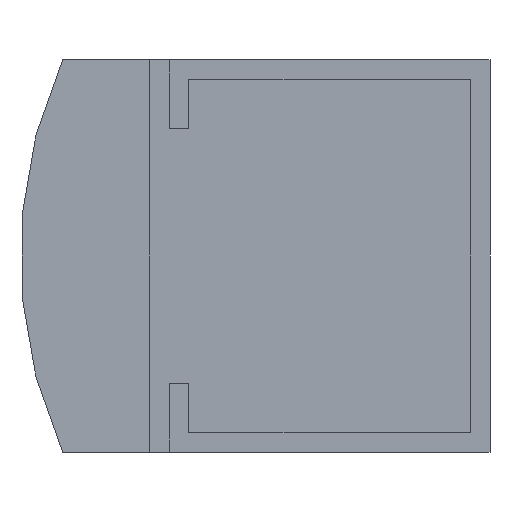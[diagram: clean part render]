
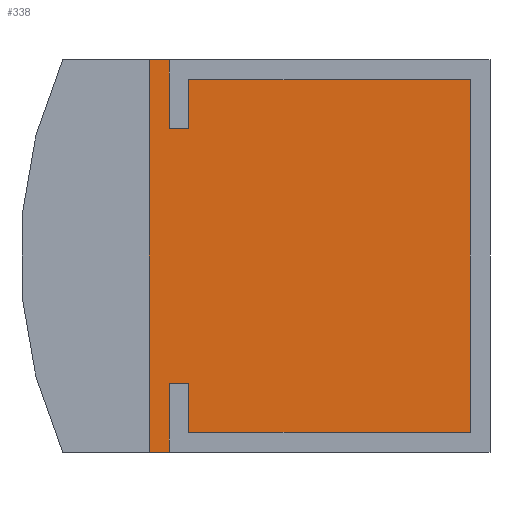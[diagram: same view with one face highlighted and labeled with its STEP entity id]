
A CAD part, left-side view. The second image highlights one B-rep face of the part: STEP entity #338.
In plain terms, the highlighted planar face has unit normal (-1, 0, 0).
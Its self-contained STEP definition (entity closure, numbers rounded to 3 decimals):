
#23 = EDGE_CURVE ( 'NONE', #804, #251, #376, .T. ) ;
#44 = ORIENTED_EDGE ( 'NONE', *, *, #844, .F. ) ;
#58 = CARTESIAN_POINT ( 'NONE',  ( -16.3, -18.7, 22.8 ) ) ;
#61 = LINE ( 'NONE', #383, #708 ) ;
#64 = PLANE ( 'NONE',  #442 ) ;
#84 = EDGE_CURVE ( 'NONE', #960, #210, #61, .T. ) ;
#101 = DIRECTION ( 'NONE',  ( 0., 1., 0. ) ) ;
#174 = CARTESIAN_POINT ( 'NONE',  ( -16.3, -21., -22.8 ) ) ;
#210 = VERTEX_POINT ( 'NONE', #624 ) ;
#217 = ORIENTED_EDGE ( 'NONE', *, *, #716, .T. ) ;
#250 = CARTESIAN_POINT ( 'NONE',  ( -16.3, -18.7, -22.8 ) ) ;
#251 = VERTEX_POINT ( 'NONE', #58 ) ;
#278 = CARTESIAN_POINT ( 'NONE',  ( -16.3, 18.6, -22.8 ) ) ;
#324 = CARTESIAN_POINT ( 'NONE',  ( -16.3, -21., 22.8 ) ) ;
#326 = VECTOR ( 'NONE', #101, 1000. ) ;
#334 = LINE ( 'NONE', #174, #326 ) ;
#338 = ADVANCED_FACE ( 'NONE', ( #372 ), #64, .F. ) ;
#372 = FACE_OUTER_BOUND ( 'NONE', #1022, .T. ) ;
#376 = LINE ( 'NONE', #1029, #989 ) ;
#383 = CARTESIAN_POINT ( 'NONE',  ( -16.3, 18.6, -59.706 ) ) ;
#393 = ORIENTED_EDGE ( 'NONE', *, *, #23, .T. ) ;
#442 = AXIS2_PLACEMENT_3D ( 'NONE', #711, #959, #1040 ) ;
#597 = ORIENTED_EDGE ( 'NONE', *, *, #84, .F. ) ;
#624 = CARTESIAN_POINT ( 'NONE',  ( -16.3, 18.6, 22.8 ) ) ;
#708 = VECTOR ( 'NONE', #720, 1000. ) ;
#711 = CARTESIAN_POINT ( 'NONE',  ( -16.3, -21., -72.338 ) ) ;
#716 = EDGE_CURVE ( 'NONE', #251, #210, #977, .T. ) ;
#720 = DIRECTION ( 'NONE',  ( 0., 0., 1. ) ) ;
#804 = VERTEX_POINT ( 'NONE', #250 ) ;
#844 = EDGE_CURVE ( 'NONE', #804, #960, #334, .T. ) ;
#872 = DIRECTION ( 'NONE',  ( 0., 0., 1. ) ) ;
#916 = VECTOR ( 'NONE', #991, 1000. ) ;
#959 = DIRECTION ( 'NONE',  ( 1., 0., 0. ) ) ;
#960 = VERTEX_POINT ( 'NONE', #278 ) ;
#977 = LINE ( 'NONE', #324, #916 ) ;
#989 = VECTOR ( 'NONE', #872, 1000. ) ;
#991 = DIRECTION ( 'NONE',  ( 0., 1., 0. ) ) ;
#1022 = EDGE_LOOP ( 'NONE', ( #44, #393, #217, #597 ) ) ;
#1029 = CARTESIAN_POINT ( 'NONE',  ( -16.3, -18.7, 22.8 ) ) ;
#1040 = DIRECTION ( 'NONE',  ( 0., 0., -1. ) ) ;
